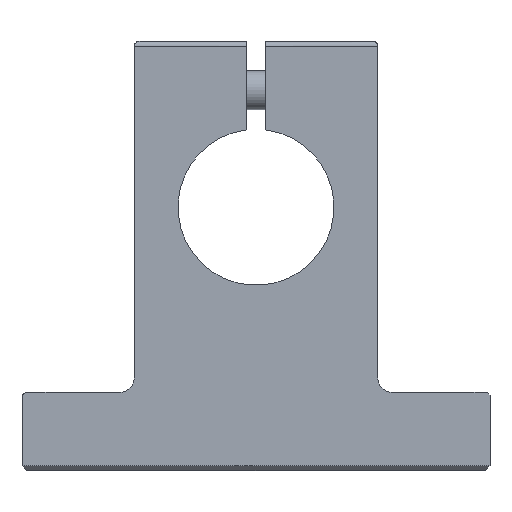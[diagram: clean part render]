
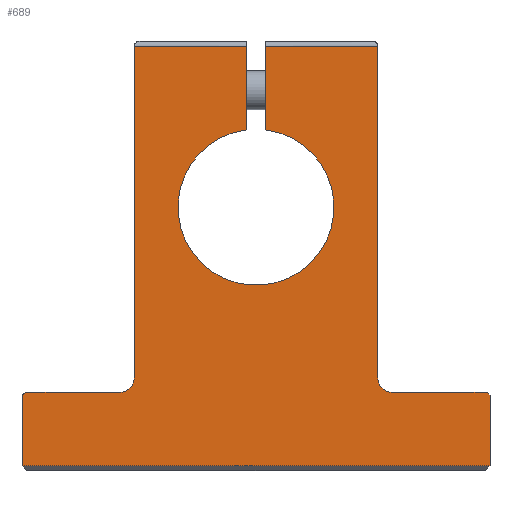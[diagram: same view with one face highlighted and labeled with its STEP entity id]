
A CAD part, left-side view. The second image highlights one B-rep face of the part: STEP entity #689.
In plain terms, the highlighted planar face has unit normal (-1, 0, 0).
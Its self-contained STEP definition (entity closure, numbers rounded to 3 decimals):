
#441=CARTESIAN_POINT('',(0.0,1.,16.5));
#442=VERTEX_POINT('',#441);
#460=CARTESIAN_POINT('',(0.0,12.5,16.5));
#461=VERTEX_POINT('',#460);
#469=CARTESIAN_POINT('',(0.0,12.5,16.5));
#470=DIRECTION('',(0.0,-1.0,0.0));
#471=VECTOR('',#470,11.5);
#472=LINE('',#469,#471);
#473=EDGE_CURVE('',#461,#442,#472,.T.);
#559=CARTESIAN_POINT('',(0.0,0.,-6.181));
#560=DIRECTION('',(1.0,0.0,0.0));
#561=DIRECTION('',(0.0,0.0,-1.0));
#562=AXIS2_PLACEMENT_3D('',#559,#560,#561);
#563=PLANE('',#562);
#564=ORIENTED_EDGE('',*,*,#473,.F.);
#565=CARTESIAN_POINT('',(0.0,12.5,-17.5));
#566=VERTEX_POINT('',#565);
#567=CARTESIAN_POINT('',(0.0,12.5,-17.5));
#568=DIRECTION('',(0.0,0.0,1.0));
#569=VECTOR('',#568,34.0);
#570=LINE('',#567,#569);
#571=EDGE_CURVE('',#566,#461,#570,.T.);
#572=ORIENTED_EDGE('',*,*,#571,.F.);
#573=CARTESIAN_POINT('',(0.0,14.,-19.));
#574=VERTEX_POINT('',#573);
#575=CARTESIAN_POINT('',(0.0,14.,-17.5));
#576=DIRECTION('',(-1.,0.0,0.0));
#577=DIRECTION('',(0.0,-0.707,-0.707));
#578=AXIS2_PLACEMENT_3D('',#575,#576,#577);
#579=CIRCLE('',#578,1.5);
#580=EDGE_CURVE('',#574,#566,#579,.T.);
#581=ORIENTED_EDGE('',*,*,#580,.F.);
#582=CARTESIAN_POINT('',(0.0,23.5,-19.0));
#583=VERTEX_POINT('',#582);
#584=CARTESIAN_POINT('',(0.0,23.5,-19.0));
#585=DIRECTION('',(0.0,-1.0,0.0));
#586=VECTOR('',#585,9.5);
#587=LINE('',#584,#586);
#588=EDGE_CURVE('',#583,#574,#587,.T.);
#589=ORIENTED_EDGE('',*,*,#588,.F.);
#590=CARTESIAN_POINT('',(0.0,24.,-19.5));
#591=VERTEX_POINT('',#590);
#592=CARTESIAN_POINT('',(0.0,23.5,-19.5));
#593=DIRECTION('',(1.,0.0,0.0));
#594=DIRECTION('',(0.0,0.707,0.707));
#595=AXIS2_PLACEMENT_3D('',#592,#593,#594);
#596=CIRCLE('',#595,0.5);
#597=EDGE_CURVE('',#591,#583,#596,.T.);
#598=ORIENTED_EDGE('',*,*,#597,.F.);
#599=CARTESIAN_POINT('',(0.0,24.,-26.5));
#600=VERTEX_POINT('',#599);
#601=CARTESIAN_POINT('',(0.0,24.,-26.5));
#602=DIRECTION('',(0.0,0.0,1.0));
#603=VECTOR('',#602,7.);
#604=LINE('',#601,#603);
#605=EDGE_CURVE('',#600,#591,#604,.T.);
#606=ORIENTED_EDGE('',*,*,#605,.F.);
#607=CARTESIAN_POINT('',(0.0,-24.,-26.5));
#608=VERTEX_POINT('',#607);
#609=CARTESIAN_POINT('',(0.0,-24.,-26.5));
#610=DIRECTION('',(0.0,1.0,0.0));
#611=VECTOR('',#610,48.);
#612=LINE('',#609,#611);
#613=EDGE_CURVE('',#608,#600,#612,.T.);
#614=ORIENTED_EDGE('',*,*,#613,.F.);
#615=CARTESIAN_POINT('',(0.0,-24.,-19.3));
#616=VERTEX_POINT('',#615);
#617=CARTESIAN_POINT('',(0.0,-24.,-19.3));
#618=DIRECTION('',(0.0,0.0,-1.0));
#619=VECTOR('',#618,7.2);
#620=LINE('',#617,#619);
#621=EDGE_CURVE('',#616,#608,#620,.T.);
#622=ORIENTED_EDGE('',*,*,#621,.F.);
#623=CARTESIAN_POINT('',(0.0,-23.7,-19.0));
#624=VERTEX_POINT('',#623);
#625=CARTESIAN_POINT('',(0.0,-23.7,-19.0));
#626=DIRECTION('',(0.0,-0.707,-0.707));
#627=VECTOR('',#626,0.424);
#628=LINE('',#625,#627);
#629=EDGE_CURVE('',#624,#616,#628,.T.);
#630=ORIENTED_EDGE('',*,*,#629,.F.);
#631=CARTESIAN_POINT('',(0.0,-14.,-19.));
#632=VERTEX_POINT('',#631);
#633=CARTESIAN_POINT('',(0.0,-14.,-19.));
#634=DIRECTION('',(0.0,-1.0,0.0));
#635=VECTOR('',#634,9.7);
#636=LINE('',#633,#635);
#637=EDGE_CURVE('',#632,#624,#636,.T.);
#638=ORIENTED_EDGE('',*,*,#637,.F.);
#639=CARTESIAN_POINT('',(0.0,-12.5,-17.5));
#640=VERTEX_POINT('',#639);
#641=CARTESIAN_POINT('',(0.0,-14.,-17.5));
#642=DIRECTION('',(-1.,0.0,0.0));
#643=DIRECTION('',(0.0,0.707,-0.707));
#644=AXIS2_PLACEMENT_3D('',#641,#642,#643);
#645=CIRCLE('',#644,1.5);
#646=EDGE_CURVE('',#640,#632,#645,.T.);
#647=ORIENTED_EDGE('',*,*,#646,.F.);
#648=CARTESIAN_POINT('',(0.0,-12.5,16.5));
#649=VERTEX_POINT('',#648);
#650=CARTESIAN_POINT('',(0.0,-12.5,16.5));
#651=DIRECTION('',(0.0,0.0,-1.0));
#652=VECTOR('',#651,34.0);
#653=LINE('',#650,#652);
#654=EDGE_CURVE('',#649,#640,#653,.T.);
#655=ORIENTED_EDGE('',*,*,#654,.F.);
#656=CARTESIAN_POINT('',(0.0,-1.,16.5));
#657=VERTEX_POINT('',#656);
#658=CARTESIAN_POINT('',(0.0,-1.,16.5));
#659=DIRECTION('',(0.0,-1.0,0.0));
#660=VECTOR('',#659,11.5);
#661=LINE('',#658,#660);
#662=EDGE_CURVE('',#657,#649,#661,.T.);
#663=ORIENTED_EDGE('',*,*,#662,.F.);
#664=CARTESIAN_POINT('',(0.0,-1.,7.937));
#665=VERTEX_POINT('',#664);
#666=CARTESIAN_POINT('',(0.0,-1.,7.937));
#667=DIRECTION('',(0.0,0.0,1.0));
#668=VECTOR('',#667,8.563);
#669=LINE('',#666,#668);
#670=EDGE_CURVE('',#665,#657,#669,.T.);
#671=ORIENTED_EDGE('',*,*,#670,.F.);
#672=CARTESIAN_POINT('',(0.0,1.,7.937));
#673=VERTEX_POINT('',#672);
#674=CARTESIAN_POINT('',(0.0,0.0,0.0));
#675=DIRECTION('',(-1.0,0.0,0.0));
#676=DIRECTION('',(0.0,-1.0,0.0));
#677=AXIS2_PLACEMENT_3D('',#674,#675,#676);
#678=CIRCLE('',#677,8.0);
#679=EDGE_CURVE('',#673,#665,#678,.T.);
#680=ORIENTED_EDGE('',*,*,#679,.F.);
#681=CARTESIAN_POINT('',(0.0,1.,16.5));
#682=DIRECTION('',(0.0,0.0,-1.0));
#683=VECTOR('',#682,8.563);
#684=LINE('',#681,#683);
#685=EDGE_CURVE('',#442,#673,#684,.T.);
#686=ORIENTED_EDGE('',*,*,#685,.F.);
#687=EDGE_LOOP('',(#564,#572,#581,#589,#598,#606,#614,#622,#630,#638,#647,#655,#663,#671,#680,#686));
#688=FACE_OUTER_BOUND('',#687,.T.);
#689=ADVANCED_FACE('',(#688),#563,.F.);
